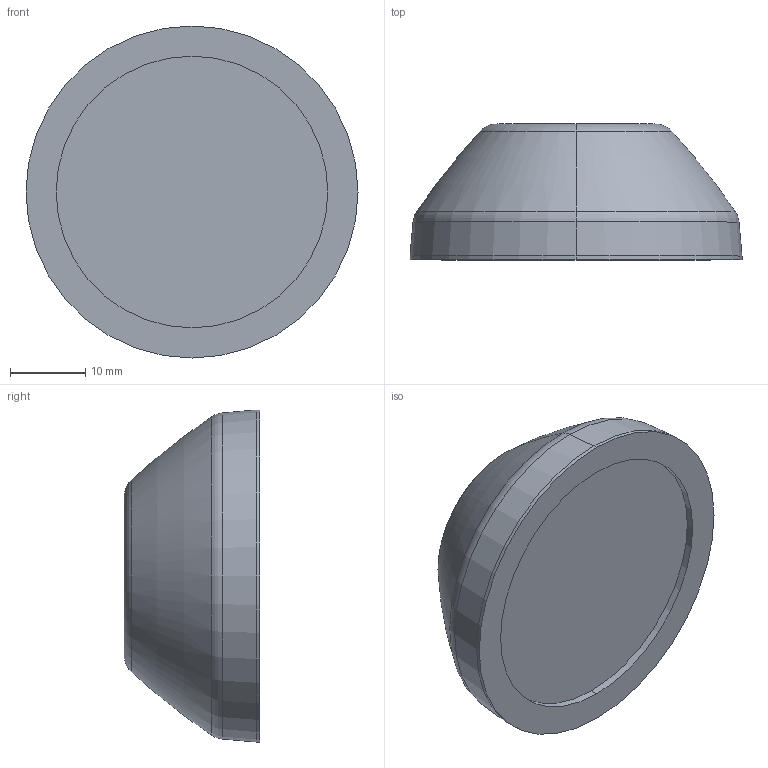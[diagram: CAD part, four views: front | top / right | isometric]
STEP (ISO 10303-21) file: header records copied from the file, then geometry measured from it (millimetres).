
FILE_DESCRIPTION (( 'STEP AP214' ), '1' );
FILE_NAME ('098d045k.STEP', '2010-12-09T16:36:17', ( ' ' ), ( ' ' ), 'SwSTEP 2.0', 'SolidWorks 2010', '' );
FILE_SCHEMA (( 'AUTOMOTIVE_DESIGN' ));
Length unit declared in the file: millimetre
Products named in the file (1): 098d045k
Bounding box: 44 x 18 x 44 mm (x, y, z)
Volume: 17513.3 mm3; surface area: 4841 mm2
Topology: 1 solids, 1 shells, 21 faces, 47 edges, 28 vertices
Faces by surface type: torus 8, cone 4, cylinder 4, plane 3, sphere 2
Entity records: 592 total; most frequent: DIRECTION 120, CARTESIAN_POINT 89, ORIENTED_EDGE 84, AXIS2_PLACEMENT_3D 56, EDGE_CURVE 42, CIRCLE 34, VERTEX_POINT 25, EDGE_LOOP 23
